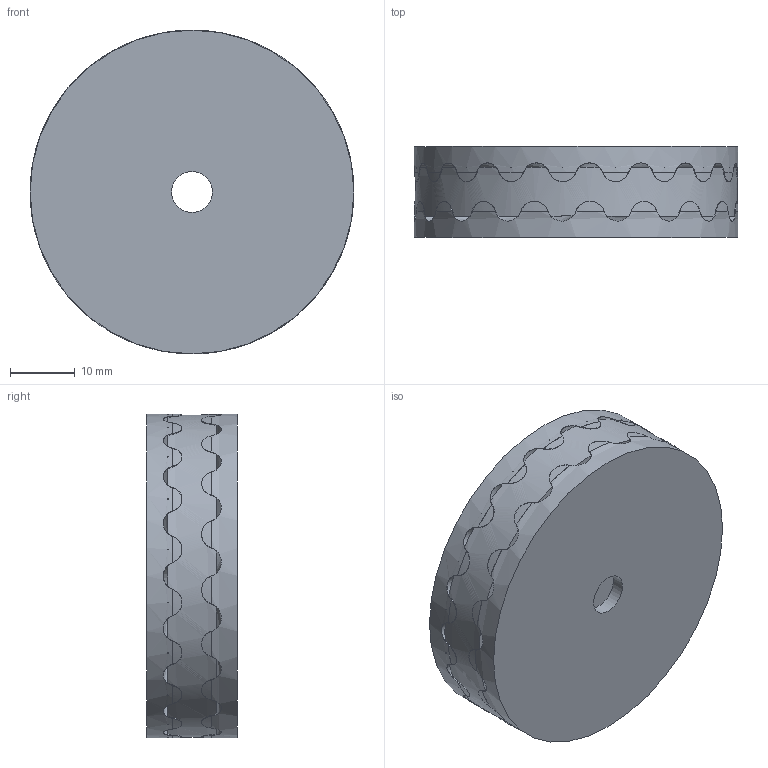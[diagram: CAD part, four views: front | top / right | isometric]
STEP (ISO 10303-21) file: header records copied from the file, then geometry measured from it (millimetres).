
FILE_DESCRIPTION(/* description */ (''),/* implementation_level */ '2;1');
FILE_NAME(/* name */ 'Parametric Vernier coupling.step',/* time_stamp */ '2025-12-26T18:42:16Z',/* author */ (''),/* organization */ (''),/* preprocessor_version */ 'ST-DEVELOPER v20.1',/* originating_system */ 'Autodesk Translation Framework v14.21.0.0',/* authorisation */ '');
FILE_SCHEMA (('AUTOMOTIVE_DESIGN { 1 0 10303 214 3 1 1 }'));
Length unit declared in the file: millimetre
Products named in the file (1): Parametric Vernier coupling
Bounding box: 50 x 14 x 50 mm (x, y, z)
Volume: 23264.9 mm3; surface area: 16076.8 mm2
Topology: 3 solids, 3 shells, 331 faces, 800 edges, 475 vertices
Faces by surface type: cone 241, plane 80, cylinder 10
Full cylindrical faces by diameter (mm): 6.3 x3, 25 x4, 49.75 x1, 50 x2
Entity records: 13392 total; most frequent: CARTESIAN_POINT 6638, ORIENTED_EDGE 1562, DIRECTION 1161, EDGE_CURVE 781, AXIS2_PLACEMENT_3D 492, VERTEX_POINT 475, EDGE_LOOP 356, B_SPLINE_CURVE_WITH_KNOTS 352
